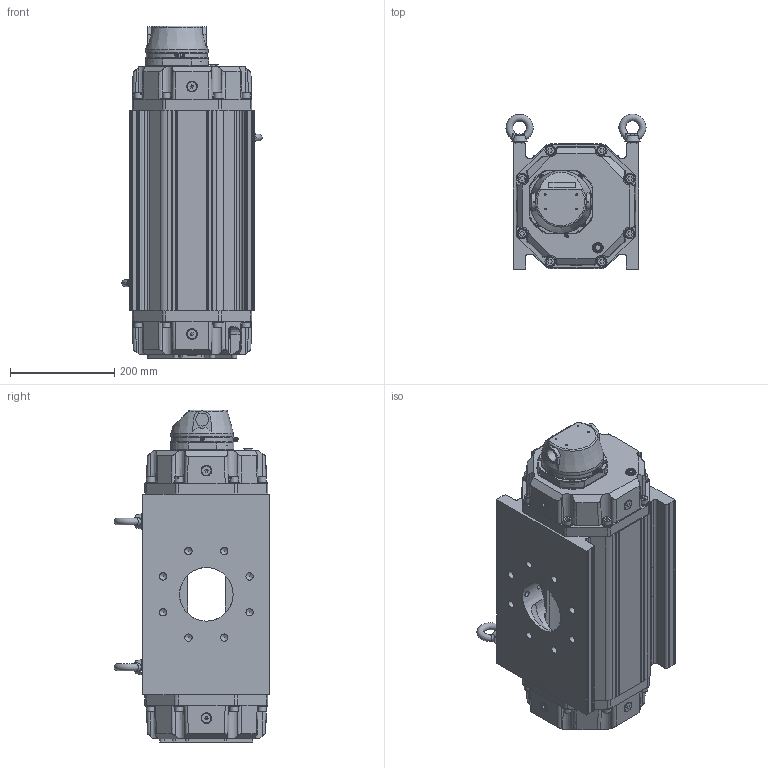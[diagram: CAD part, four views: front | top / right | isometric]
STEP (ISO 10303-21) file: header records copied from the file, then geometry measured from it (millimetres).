
FILE_DESCRIPTION(('STEP AP203'), '1');
FILE_NAME('G400-DN100', '2024-02-08T15:43:32', (''), (''), 'C3D Converter', 'C3D Toolkit', '');
FILE_SCHEMA(('CONFIG_CONTROL_DESIGN'));
Length unit declared in the file: millimetre
Products named in the file (1): G400-4
Bounding box: 269.19 x 299.1 x 637.9 mm (x, y, z)
Volume: 14195671 mm3; surface area: 1194002.1 mm2
Topology: 5 solids, 5 shells, 1555 faces, 3901 edges, 2435 vertices
Faces by surface type: plane 643, cylinder 421, bspline 192, cone 185, torus 112, sphere 2
Full cylindrical faces by diameter (mm): 2 x12, 2.05 x2, 2.5 x8, 3 x4, 3.175 x1, 3.2 x1, 3.3 x1, 4.2 x4, 4.5 x1, 5.2 x4, 5.774 x9, 6.2 x1, 6.3 x1, 6.35 x4, 7.8 x4, 8 x4, 8.5 x8, 9 x2, 9.4 x4, 10 x2, 10.2 x2, 11 x9, 11.125 x2, 12 x2, 13.096 x13, 14 x18, 15 x1, 16 x21, 17 x2, 17.6 x4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
Entity records: 89270 total; most frequent: CARTESIAN_POINT 43405, ORIENTED_EDGE 6874, DIRECTION 6357, EDGE_CURVE 3437, AXIS2_PLACEMENT_3D 2506, VERTEX_POINT 2376, EDGE_LOOP 2093, FACE_BOUND 1592
